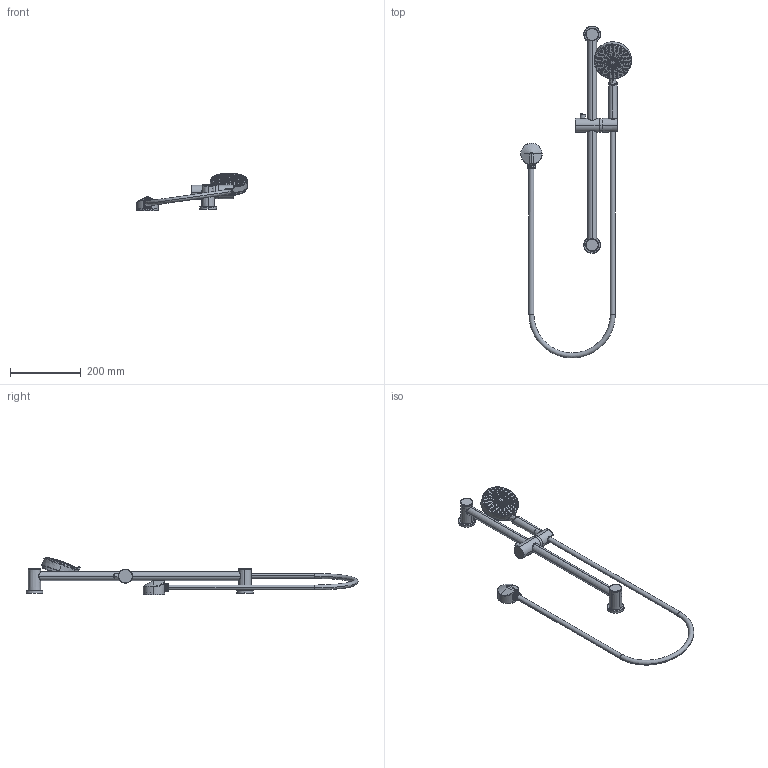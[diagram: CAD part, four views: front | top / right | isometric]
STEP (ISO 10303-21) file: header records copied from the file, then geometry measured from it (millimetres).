
FILE_DESCRIPTION (( 'STEP AP214' ), '1' );
FILE_NAME ('Hi-HED850.STEP', '2021-07-22T02:09:36', ( '' ), ( '' ), 'SwSTEP 2.0', 'SolidWorks 2020', '' );
FILE_SCHEMA (( 'AUTOMOTIVE_DESIGN' ));
Length unit declared in the file: millimetre
Products named in the file (23): C41; Hi-HED850; C12; 628-WY; A05; 306-ZSL; C1_ASM; A01; HEDC850-CX; 850-FACE-ONLY; A03; STANDARD-HOSE; TTH10X0D7; TH3X10; 2F1; 850-SB_ASM; C31; 850_ASM; 850-MG_ASM-FACE; 23D_SJZ; SB; 30A_NGJT; HOSE-END-HEAD
Assembly tree (25 placements, depth 4):
  Hi-HED850
    A01
    A03  x2
    A05  x2
    850_ASM
      850-SB_ASM
        SB
        628-WY
      TH3X10
      TTH10X0D7  x2
    2F1
    HOSE-END-HEAD
    STANDARD-HOSE
    850-MG_ASM-FACE
      850-FACE-ONLY
      306-ZSL
    HEDC850-CX
      C1_ASM
        C41
        C31
        C12
      30A_NGJT
    23D_SJZ
Bounding box: 313.63 x 939.94 x 107.15 mm (x, y, z)
Volume: 548665.8 mm3; surface area: 324112.6 mm2
Topology: 19 solids, 21 shells, 1938 faces, 4776 edges, 3047 vertices
Faces by surface type: cylinder 927, bspline 506, plane 369, cone 130, torus 6
Entity records: 96007 total; most frequent: CARTESIAN_POINT 54133, ORIENTED_EDGE 8998, DIRECTION 7928, EDGE_CURVE 4509, AXIS2_PLACEMENT_3D 3281, VERTEX_POINT 2883, EDGE_LOOP 2162, CIRCLE 1891
